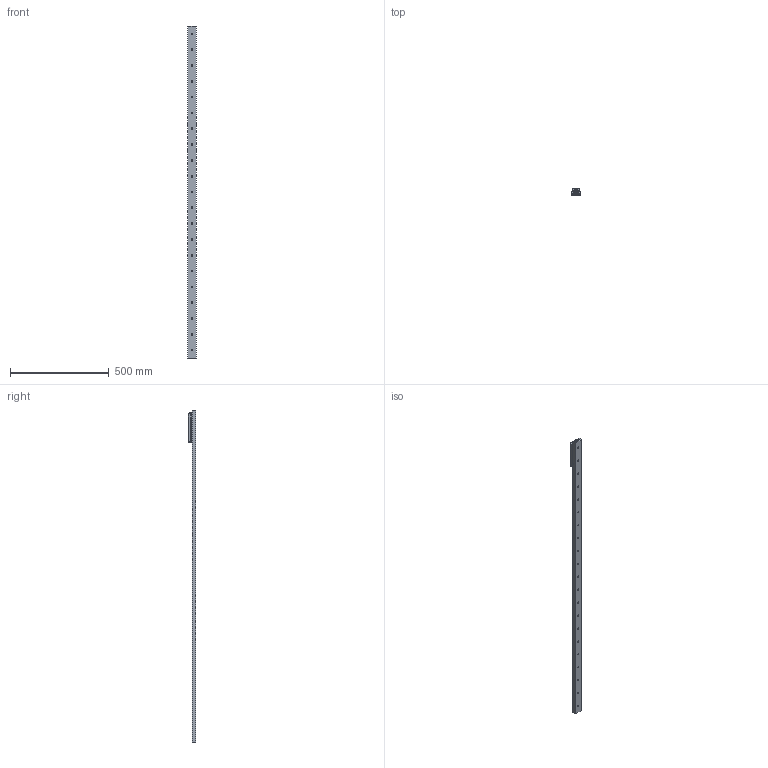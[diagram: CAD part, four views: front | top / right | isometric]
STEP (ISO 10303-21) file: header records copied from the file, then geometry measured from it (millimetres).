
FILE_DESCRIPTION( ( 'STEP AP214' ), '1' );
FILE_NAME( 'p:/temp/worker_55/temp/exporttempdir_2036_203_gnjqI/format_0/TGV-01680_1_RV43G-3.stp', '2021-06-09T19:32:16', ( 'License CC BY-ND 4.0' ), ( 'CADENAS' ), ' ', 'PARTsolutions', ' ' );
FILE_SCHEMA( ( 'AUTOMOTIVE_DESIGN { 1 0 10303 214 1 1 1 1 }' ) );
Length unit declared in the file: millimetre
Products named in the file (6): TGV-01680/1/RV43G-3; _TGV43-1680-(3-1); _RVG43-3-slider; _RGNV43R; _RGAV43R; _WR43G-01
Assembly tree (7 placements, depth 2):
  TGV-01680/1/RV43G-3
    _TGV43-1680-(3-1)
    _RVG43-3-slider
    _RGNV43R  x2
    _RGAV43R
    _WR43G-01  x2
Bounding box: 43 x 37 x 1680 mm (x, y, z)
Volume: 735963.6 mm3; surface area: 295679.1 mm2
Topology: 7 solids, 7 shells, 1083 faces, 2829 edges, 1842 vertices
Faces by surface type: plane 663, cylinder 317, cone 60, bspline 34, torus 9
Full cylindrical faces by diameter (mm): 1.76 x4, 3 x8, 6 x4, 6.647 x4, 6.8 x3, 8 x3, 8.5 x21, 11 x11, 15 x6, 15.5 x1, 18.98 x2, 19 x1, 31.4 x6
Entity records: 25963 total; most frequent: CARTESIAN_POINT 4094, DIRECTION 3477, ORIENTED_EDGE 3190, EDGE_CURVE 1595, AXIS2_PLACEMENT_3D 1335, VERTEX_POINT 1114, EDGE_LOOP 923, LINE 807
